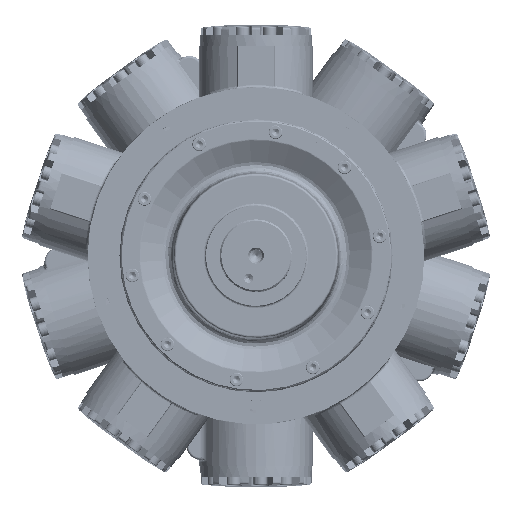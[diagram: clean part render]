
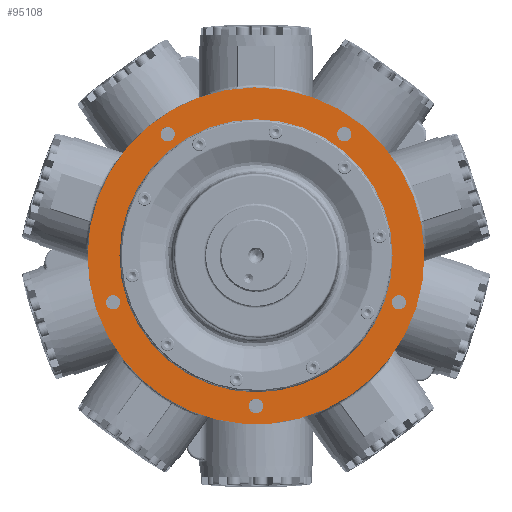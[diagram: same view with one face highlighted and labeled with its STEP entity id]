
A CAD part, top view. The second image highlights one B-rep face of the part: STEP entity #95108.
In plain terms, the highlighted planar face has unit normal (0, 0, 1).
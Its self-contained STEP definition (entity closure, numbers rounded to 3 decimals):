
#86603=CARTESIAN_POINT('',(-234.95,0.,4.826));
#86604=VERTEX_POINT('',#86603);
#86605=CARTESIAN_POINT('',(0.0,0.0,4.826));
#86606=DIRECTION('',(0.0,0.0,-1.0));
#86607=DIRECTION('',(1.0,0.0,0.0));
#86608=AXIS2_PLACEMENT_3D('',#86605,#86606,#86607);
#86609=CIRCLE('',#86608,234.95);
#86610=EDGE_CURVE('',#86604,#86604,#86609,.T.);
#95034=CARTESIAN_POINT('',(213.169,0.0,4.826));
#95035=DIRECTION('',(0.0,0.0,-1.0));
#95036=DIRECTION('',(-1.0,0.0,0.0));
#95037=AXIS2_PLACEMENT_3D('',#95034,#95035,#95036);
#95038=PLANE('',#95037);
#95039=ORIENTED_EDGE('',*,*,#86610,.F.);
#95040=EDGE_LOOP('',(#95039));
#95041=FACE_OUTER_BOUND('',#95040,.T.);
#95042=CARTESIAN_POINT('',(-196.204,-74.265,4.826));
#95043=VERTEX_POINT('',#95042);
#95044=CARTESIAN_POINT('',(-199.294,-64.755,4.826));
#95045=DIRECTION('',(0.0,0.0,-1.0));
#95046=DIRECTION('',(0.309,-0.951,0.0));
#95047=AXIS2_PLACEMENT_3D('',#95044,#95045,#95046);
#95048=CIRCLE('',#95047,10.);
#95049=EDGE_CURVE('',#95043,#95043,#95048,.T.);
#95050=ORIENTED_EDGE('',*,*,#95049,.T.);
#95051=EDGE_LOOP('',(#95050));
#95052=FACE_BOUND('',#95051,.T.);
#95053=CARTESIAN_POINT('',(-131.261,163.652,4.826));
#95054=VERTEX_POINT('',#95053);
#95055=CARTESIAN_POINT('',(-123.17,169.53,4.826));
#95056=DIRECTION('',(0.0,0.0,-1.));
#95057=DIRECTION('',(-0.809,-0.588,0.0));
#95058=AXIS2_PLACEMENT_3D('',#95055,#95056,#95057);
#95059=CIRCLE('',#95058,10.0);
#95060=EDGE_CURVE('',#95054,#95054,#95059,.T.);
#95061=ORIENTED_EDGE('',*,*,#95060,.T.);
#95062=EDGE_LOOP('',(#95061));
#95063=FACE_BOUND('',#95062,.T.);
#95064=CARTESIAN_POINT('',(115.08,175.407,4.826));
#95065=VERTEX_POINT('',#95064);
#95066=CARTESIAN_POINT('',(123.17,169.53,4.826));
#95067=DIRECTION('',(0.0,0.0,-1.0));
#95068=DIRECTION('',(-0.809,0.588,0.0));
#95069=AXIS2_PLACEMENT_3D('',#95066,#95067,#95068);
#95070=CIRCLE('',#95069,10.);
#95071=EDGE_CURVE('',#95065,#95065,#95070,.T.);
#95072=ORIENTED_EDGE('',*,*,#95071,.T.);
#95073=EDGE_LOOP('',(#95072));
#95074=FACE_BOUND('',#95073,.T.);
#95075=CARTESIAN_POINT('',(202.384,-55.244,4.826));
#95076=VERTEX_POINT('',#95075);
#95077=CARTESIAN_POINT('',(199.294,-64.755,4.826));
#95078=DIRECTION('',(0.0,0.0,-1.));
#95079=DIRECTION('',(0.309,0.951,0.0));
#95080=AXIS2_PLACEMENT_3D('',#95077,#95078,#95079);
#95081=CIRCLE('',#95080,10.0);
#95082=EDGE_CURVE('',#95076,#95076,#95081,.T.);
#95083=ORIENTED_EDGE('',*,*,#95082,.T.);
#95084=EDGE_LOOP('',(#95083));
#95085=FACE_BOUND('',#95084,.T.);
#95086=CARTESIAN_POINT('',(10.,-209.55,4.826));
#95087=VERTEX_POINT('',#95086);
#95088=CARTESIAN_POINT('',(0.,-209.55,4.826));
#95089=DIRECTION('',(0.0,0.0,-1.0));
#95090=DIRECTION('',(1.0,0.0,0.0));
#95091=AXIS2_PLACEMENT_3D('',#95088,#95089,#95090);
#95092=CIRCLE('',#95091,10.0);
#95093=EDGE_CURVE('',#95087,#95087,#95092,.T.);
#95094=ORIENTED_EDGE('',*,*,#95093,.T.);
#95095=EDGE_LOOP('',(#95094));
#95096=FACE_BOUND('',#95095,.T.);
#95097=CARTESIAN_POINT('',(190.456,0.0,4.826));
#95098=VERTEX_POINT('',#95097);
#95099=CARTESIAN_POINT('',(0.0,0.0,4.826));
#95100=DIRECTION('',(0.0,0.0,-1.0));
#95101=DIRECTION('',(1.0,0.0,0.0));
#95102=AXIS2_PLACEMENT_3D('',#95099,#95100,#95101);
#95103=CIRCLE('',#95102,190.456);
#95104=EDGE_CURVE('',#95098,#95098,#95103,.T.);
#95105=ORIENTED_EDGE('',*,*,#95104,.T.);
#95106=EDGE_LOOP('',(#95105));
#95107=FACE_BOUND('',#95106,.T.);
#95108=ADVANCED_FACE('',(#95041,#95052,#95063,#95074,#95085,#95096,#95107),#95038,.F.);
